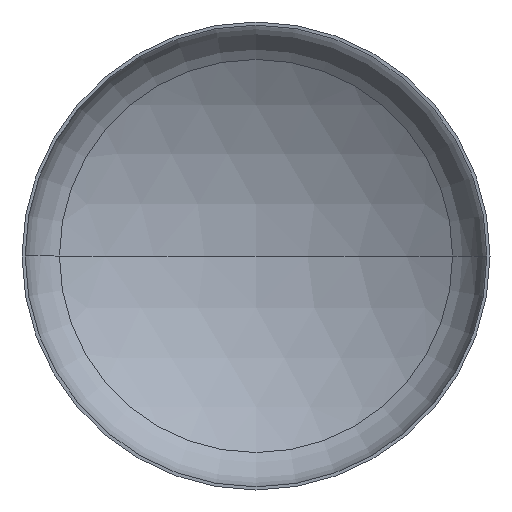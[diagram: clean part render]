
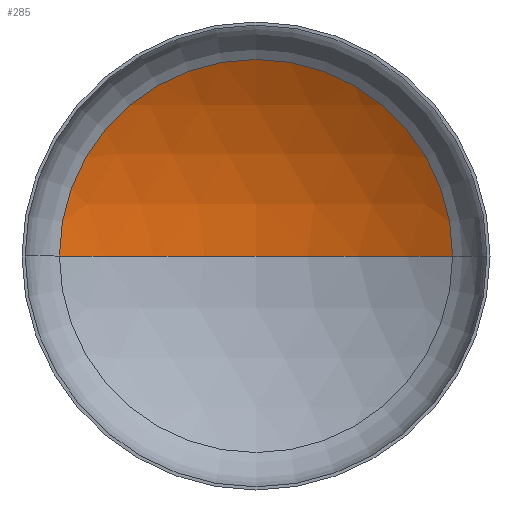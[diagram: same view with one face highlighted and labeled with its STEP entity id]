
A CAD part, front view. The second image highlights one B-rep face of the part: STEP entity #285.
In plain terms, the highlighted spherical face has radius 5600 mm.
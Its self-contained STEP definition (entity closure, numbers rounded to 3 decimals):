
#6 = VERTEX_POINT ( 'NONE', #336 ) ;
#14 = DIRECTION ( 'NONE',  ( 1., 0., 0. ) ) ;
#18 = ORIENTED_EDGE ( 'NONE', *, *, #159, .T. ) ;
#24 = ORIENTED_EDGE ( 'NONE', *, *, #161, .T. ) ;
#37 = AXIS2_PLACEMENT_3D ( 'NONE', #334, #322, #87 ) ;
#47 = DIRECTION ( 'NONE',  ( 0., -1., 0. ) ) ;
#53 = VERTEX_POINT ( 'NONE', #310 ) ;
#72 = ORIENTED_EDGE ( 'NONE', *, *, #165, .F. ) ;
#87 = DIRECTION ( 'NONE',  ( -1., 0., 0. ) ) ;
#91 = VERTEX_POINT ( 'NONE', #162 ) ;
#99 = EDGE_LOOP ( 'NONE', ( #72, #24, #18 ) ) ;
#100 = AXIS2_PLACEMENT_3D ( 'NONE', #379, #257, #14 ) ;
#104 = AXIS2_PLACEMENT_3D ( 'NONE', #249, #253, #202 ) ;
#108 = AXIS2_PLACEMENT_3D ( 'NONE', #245, #47, #303 ) ;
#159 = EDGE_CURVE ( 'NONE', #6, #53, #293, .T. ) ;
#161 = EDGE_CURVE ( 'NONE', #91, #6, #231, .T. ) ;
#162 = CARTESIAN_POINT ( 'NONE',  ( 0., 1903.018, 0. ) ) ;
#165 = EDGE_CURVE ( 'NONE', #91, #53, #388, .T. ) ;
#197 = FACE_OUTER_BOUND ( 'NONE', #99, .T. ) ;
#202 = DIRECTION ( 'NONE',  ( -1., 0., 0. ) ) ;
#231 = CIRCLE ( 'NONE', #104, 5600. ) ;
#245 = CARTESIAN_POINT ( 'NONE',  ( 0., 1069.19, 0. ) ) ;
#249 = CARTESIAN_POINT ( 'NONE',  ( 0., -3696.982, 0. ) ) ;
#253 = DIRECTION ( 'NONE',  ( 0., 0., -1. ) ) ;
#257 = DIRECTION ( 'NONE',  ( 0., 0., 1. ) ) ;
#285 = ADVANCED_FACE ( 'NONE', ( #197 ), #375, .F. ) ;
#293 = CIRCLE ( 'NONE', #108, 2940. ) ;
#303 = DIRECTION ( 'NONE',  ( 1., 0., 0. ) ) ;
#310 = CARTESIAN_POINT ( 'NONE',  ( -2940., 1069.19, 0. ) ) ;
#322 = DIRECTION ( 'NONE',  ( 0., 0., -1. ) ) ;
#334 = CARTESIAN_POINT ( 'NONE',  ( 0., -3696.982, 0. ) ) ;
#336 = CARTESIAN_POINT ( 'NONE',  ( 2940., 1069.19, 0. ) ) ;
#375 = SPHERICAL_SURFACE ( 'NONE', #37, 5600. ) ;
#379 = CARTESIAN_POINT ( 'NONE',  ( 0., -3696.982, 0. ) ) ;
#388 = CIRCLE ( 'NONE', #100, 5600. ) ;
